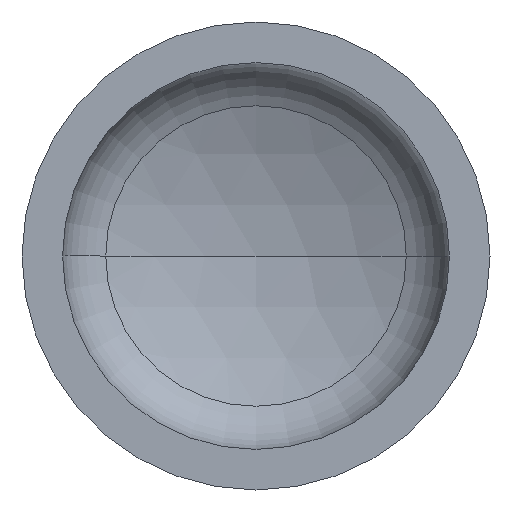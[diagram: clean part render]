
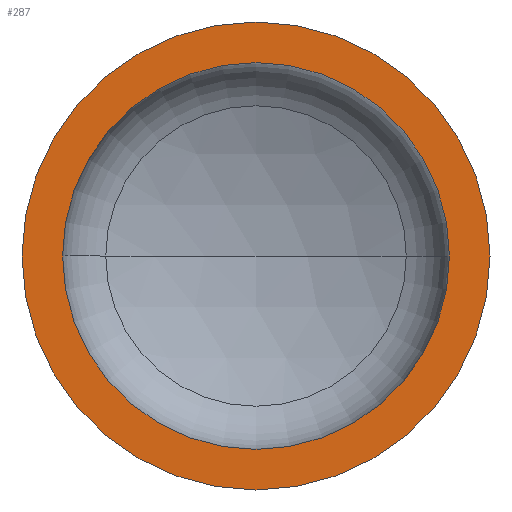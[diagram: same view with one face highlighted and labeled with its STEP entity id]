
A CAD part, front view. The second image highlights one B-rep face of the part: STEP entity #287.
In plain terms, the highlighted planar face has unit normal (0, -1, 0).
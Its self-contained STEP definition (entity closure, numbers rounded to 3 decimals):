
#2 = DIRECTION ( 'NONE',  ( 1., 0., 0. ) ) ;
#8 = EDGE_LOOP ( 'NONE', ( #19, #163 ) ) ;
#15 = AXIS2_PLACEMENT_3D ( 'NONE', #76, #135, #128 ) ;
#19 = ORIENTED_EDGE ( 'NONE', *, *, #53, .T. ) ;
#34 = VERTEX_POINT ( 'NONE', #223 ) ;
#36 = DIRECTION ( 'NONE',  ( 0., -1., 0. ) ) ;
#52 = AXIS2_PLACEMENT_3D ( 'NONE', #275, #36, #2 ) ;
#53 = EDGE_CURVE ( 'NONE', #179, #34, #303, .T. ) ;
#55 = AXIS2_PLACEMENT_3D ( 'NONE', #206, #185, #187 ) ;
#70 = EDGE_LOOP ( 'NONE', ( #92, #81 ) ) ;
#74 = FACE_OUTER_BOUND ( 'NONE', #8, .T. ) ;
#76 = CARTESIAN_POINT ( 'NONE',  ( -600., 0., 0. ) ) ;
#81 = ORIENTED_EDGE ( 'NONE', *, *, #381, .F. ) ;
#82 = PLANE ( 'NONE',  #15 ) ;
#87 = AXIS2_PLACEMENT_3D ( 'NONE', #332, #331, #329 ) ;
#92 = ORIENTED_EDGE ( 'NONE', *, *, #120, .F. ) ;
#100 = VERTEX_POINT ( 'NONE', #351 ) ;
#118 = EDGE_CURVE ( 'NONE', #34, #179, #347, .T. ) ;
#120 = EDGE_CURVE ( 'NONE', #100, #162, #222, .T. ) ;
#128 = DIRECTION ( 'NONE',  ( -1., 0., 0. ) ) ;
#135 = DIRECTION ( 'NONE',  ( 0., 1., 0. ) ) ;
#153 = DIRECTION ( 'NONE',  ( 0., -1., 0. ) ) ;
#162 = VERTEX_POINT ( 'NONE', #175 ) ;
#163 = ORIENTED_EDGE ( 'NONE', *, *, #118, .T. ) ;
#175 = CARTESIAN_POINT ( 'NONE',  ( -496., 0., 0. ) ) ;
#179 = VERTEX_POINT ( 'NONE', #228 ) ;
#185 = DIRECTION ( 'NONE',  ( 0., -1., 0. ) ) ;
#187 = DIRECTION ( 'NONE',  ( 1., 0., 0. ) ) ;
#206 = CARTESIAN_POINT ( 'NONE',  ( 0., 0., 0. ) ) ;
#222 = CIRCLE ( 'NONE', #52, 496. ) ;
#223 = CARTESIAN_POINT ( 'NONE',  ( -600., 0., 0. ) ) ;
#228 = CARTESIAN_POINT ( 'NONE',  ( 600., 0., 0. ) ) ;
#235 = CIRCLE ( 'NONE', #271, 496. ) ;
#251 = DIRECTION ( 'NONE',  ( 1., 0., 0. ) ) ;
#271 = AXIS2_PLACEMENT_3D ( 'NONE', #322, #153, #251 ) ;
#275 = CARTESIAN_POINT ( 'NONE',  ( 0., 0., 0. ) ) ;
#287 = ADVANCED_FACE ( 'NONE', ( #321, #74 ), #82, .F. ) ;
#303 = CIRCLE ( 'NONE', #87, 600. ) ;
#321 = FACE_BOUND ( 'NONE', #70, .T. ) ;
#322 = CARTESIAN_POINT ( 'NONE',  ( 0., 0., 0. ) ) ;
#329 = DIRECTION ( 'NONE',  ( 1., 0., 0. ) ) ;
#331 = DIRECTION ( 'NONE',  ( 0., -1., 0. ) ) ;
#332 = CARTESIAN_POINT ( 'NONE',  ( 0., 0., 0. ) ) ;
#347 = CIRCLE ( 'NONE', #55, 600. ) ;
#351 = CARTESIAN_POINT ( 'NONE',  ( 496., 0., 0. ) ) ;
#381 = EDGE_CURVE ( 'NONE', #162, #100, #235, .T. ) ;
